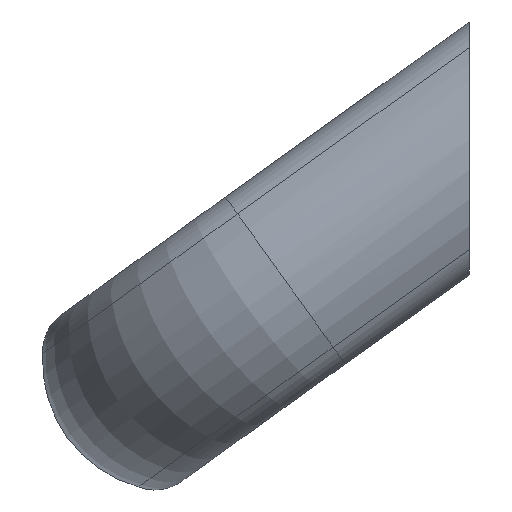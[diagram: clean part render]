
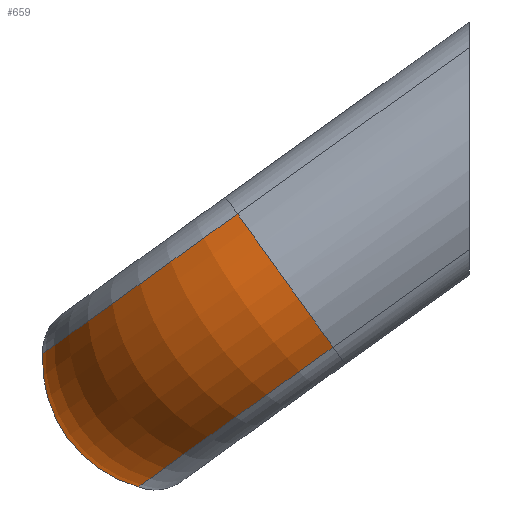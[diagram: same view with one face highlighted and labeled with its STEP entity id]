
A CAD part, left-side view. The second image highlights one B-rep face of the part: STEP entity #659.
In plain terms, the highlighted toroidal (fillet/blend) face has major radius 17.484 mm and minor radius 16.516 mm.
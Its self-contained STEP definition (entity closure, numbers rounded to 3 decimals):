
#4 = CARTESIAN_POINT ( 'NONE',  ( -54.5, 41.876, -40.816 ) ) ;
#54 = DIRECTION ( 'NONE',  ( 1., 0., 0. ) ) ;
#65 = DIRECTION ( 'NONE',  ( 0., 0., -1. ) ) ;
#69 = AXIS2_PLACEMENT_3D ( 'NONE', #84, #54, #65 ) ;
#71 = CIRCLE ( 'NONE', #77, 16.516 ) ;
#77 = AXIS2_PLACEMENT_3D ( 'NONE', #88, #102, #101 ) ;
#84 = CARTESIAN_POINT ( 'NONE',  ( -54.5, 37.485, -24.895 ) ) ;
#88 = CARTESIAN_POINT ( 'NONE',  ( -71.984, 23.279, -14.702 ) ) ;
#89 = CIRCLE ( 'NONE', #69, 16.516 ) ;
#101 = DIRECTION ( 'NONE',  ( -0.583, -0.474, -0.66 ) ) ;
#102 = DIRECTION ( 'NONE',  ( 0., 0.813, -0.583 ) ) ;
#128 = FACE_OUTER_BOUND ( 'NONE', #586, .T. ) ;
#157 = CARTESIAN_POINT ( 'NONE',  ( -54.5, 23.279, -14.702 ) ) ;
#161 = TOROIDAL_SURFACE ( 'NONE', #187, 17.484, 16.516 ) ;
#166 = DIRECTION ( 'NONE',  ( 0., -0.813, 0.583 ) ) ;
#169 = CARTESIAN_POINT ( 'NONE',  ( -54.5, 53.974, -23.955 ) ) ;
#174 = DIRECTION ( 'NONE',  ( 0., 0.583, 0.813 ) ) ;
#187 = AXIS2_PLACEMENT_3D ( 'NONE', #157, #174, #166 ) ;
#190 = DIRECTION ( 'NONE',  ( 0., -0.813, 0.583 ) ) ;
#194 = CIRCLE ( 'NONE', #206, 30.334 ) ;
#200 = CARTESIAN_POINT ( 'NONE',  ( -84.834, 17.23, -23.133 ) ) ;
#204 = CARTESIAN_POINT ( 'NONE',  ( -54.5, 29.327, -6.272 ) ) ;
#206 = AXIS2_PLACEMENT_3D ( 'NONE', #212, #215, #239 ) ;
#212 = CARTESIAN_POINT ( 'NONE',  ( -54.5, 17.23, -23.133 ) ) ;
#215 = DIRECTION ( 'NONE',  ( 0., -0.583, -0.813 ) ) ;
#220 = DIRECTION ( 'NONE',  ( 0., -0.583, -0.813 ) ) ;
#221 = AXIS2_PLACEMENT_3D ( 'NONE', #204, #220, #190 ) ;
#239 = DIRECTION ( 'NONE',  ( 0., -0.813, 0.583 ) ) ;
#246 = CIRCLE ( 'NONE', #221, 30.334 ) ;
#397 = VERTEX_POINT ( 'NONE', #687 ) ;
#586 = EDGE_LOOP ( 'NONE', ( #661, #616, #629, #588 ) ) ;
#588 = ORIENTED_EDGE ( 'NONE', *, *, #615, .T. ) ;
#606 = EDGE_CURVE ( 'NONE', #619, #702, #89, .T. ) ;
#615 = EDGE_CURVE ( 'NONE', #727, #397, #71, .T. ) ;
#616 = ORIENTED_EDGE ( 'NONE', *, *, #606, .F. ) ;
#619 = VERTEX_POINT ( 'NONE', #4 ) ;
#629 = ORIENTED_EDGE ( 'NONE', *, *, #721, .F. ) ;
#659 = ADVANCED_FACE ( 'NONE', ( #128 ), #161, .T. ) ;
#661 = ORIENTED_EDGE ( 'NONE', *, *, #726, .T. ) ;
#687 = CARTESIAN_POINT ( 'NONE',  ( -84.834, 29.327, -6.272 ) ) ;
#702 = VERTEX_POINT ( 'NONE', #169 ) ;
#721 = EDGE_CURVE ( 'NONE', #727, #619, #194, .T. ) ;
#726 = EDGE_CURVE ( 'NONE', #397, #702, #246, .T. ) ;
#727 = VERTEX_POINT ( 'NONE', #200 ) ;
